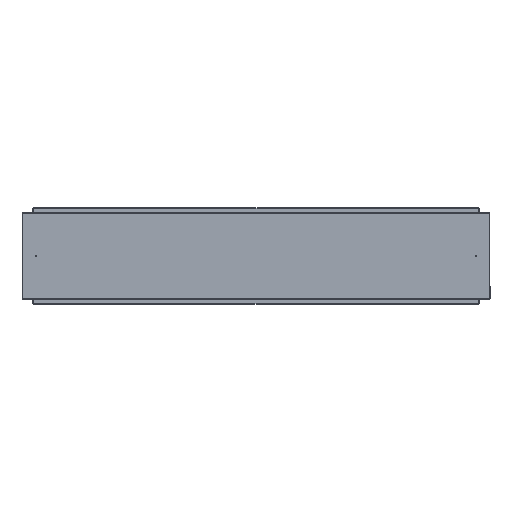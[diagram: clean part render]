
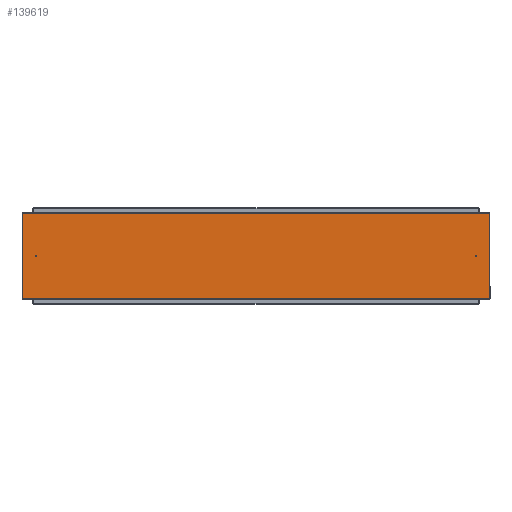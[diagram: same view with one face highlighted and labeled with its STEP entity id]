
A CAD part, left-side view. The second image highlights one B-rep face of the part: STEP entity #139619.
In plain terms, the highlighted planar face has unit normal (-1, 0, 0) as drawn and (0, 0, -1) by its records, which use the part's own axes.
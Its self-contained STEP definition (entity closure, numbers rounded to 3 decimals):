
#1033 = LINE ( 'NONE', #76490, #99537 ) ;
#2235 = DIRECTION ( 'NONE',  ( 0., 0., 1. ) ) ;
#12299 = DIRECTION ( 'NONE',  ( 0., -1., 0. ) ) ;
#18408 = EDGE_CURVE ( 'NONE', #48866, #79263, #130606, .T. ) ;
#19885 = VECTOR ( 'NONE', #81873, 1000. ) ;
#20516 = ORIENTED_EDGE ( 'NONE', *, *, #62101, .F. ) ;
#21998 = DIRECTION ( 'NONE',  ( -1., 0., 0. ) ) ;
#24757 = DIRECTION ( 'NONE',  ( 0., 1., 0. ) ) ;
#38826 = CARTESIAN_POINT ( 'NONE',  ( -183.49, -998.5, 0. ) ) ;
#43808 = PLANE ( 'NONE',  #72130 ) ;
#44578 = VERTEX_POINT ( 'NONE', #119287 ) ;
#45892 = FACE_OUTER_BOUND ( 'NONE', #46482, .T. ) ;
#46482 = EDGE_LOOP ( 'NONE', ( #20516, #94685, #71134, #132073 ) ) ;
#48866 = VERTEX_POINT ( 'NONE', #56762 ) ;
#56493 = CARTESIAN_POINT ( 'NONE',  ( -183.49, -998.5, 0. ) ) ;
#56762 = CARTESIAN_POINT ( 'NONE',  ( 183.49, -998.5, 0. ) ) ;
#57262 = VECTOR ( 'NONE', #24757, 1000. ) ;
#62101 = EDGE_CURVE ( 'NONE', #44578, #124877, #1033, .T. ) ;
#70356 = EDGE_CURVE ( 'NONE', #79263, #44578, #74228, .T. ) ;
#71134 = ORIENTED_EDGE ( 'NONE', *, *, #18408, .F. ) ;
#72130 = AXIS2_PLACEMENT_3D ( 'NONE', #56493, #2235, #88973 ) ;
#73521 = CARTESIAN_POINT ( 'NONE',  ( -183.49, 998.5, 0. ) ) ;
#74228 = LINE ( 'NONE', #73521, #124939 ) ;
#76490 = CARTESIAN_POINT ( 'NONE',  ( -183.49, 998.5, 0. ) ) ;
#79263 = VERTEX_POINT ( 'NONE', #93979 ) ;
#81873 = DIRECTION ( 'NONE',  ( 1., 0., 0. ) ) ;
#87897 = CARTESIAN_POINT ( 'NONE',  ( -183.49, -998.5, 0. ) ) ;
#88973 = DIRECTION ( 'NONE',  ( 1., 0., 0. ) ) ;
#93979 = CARTESIAN_POINT ( 'NONE',  ( 183.49, 998.5, 0. ) ) ;
#94685 = ORIENTED_EDGE ( 'NONE', *, *, #70356, .F. ) ;
#99537 = VECTOR ( 'NONE', #12299, 1000. ) ;
#107275 = EDGE_CURVE ( 'NONE', #124877, #48866, #126322, .T. ) ;
#119287 = CARTESIAN_POINT ( 'NONE',  ( -183.49, 998.5, 0. ) ) ;
#124877 = VERTEX_POINT ( 'NONE', #87897 ) ;
#124939 = VECTOR ( 'NONE', #21998, 1000. ) ;
#126322 = LINE ( 'NONE', #38826, #19885 ) ;
#130606 = LINE ( 'NONE', #131985, #57262 ) ;
#131985 = CARTESIAN_POINT ( 'NONE',  ( 183.49, 998.5, 0. ) ) ;
#132073 = ORIENTED_EDGE ( 'NONE', *, *, #107275, .F. ) ;
#139619 = ADVANCED_FACE ( 'NONE', ( #45892 ), #43808, .F. ) ;
